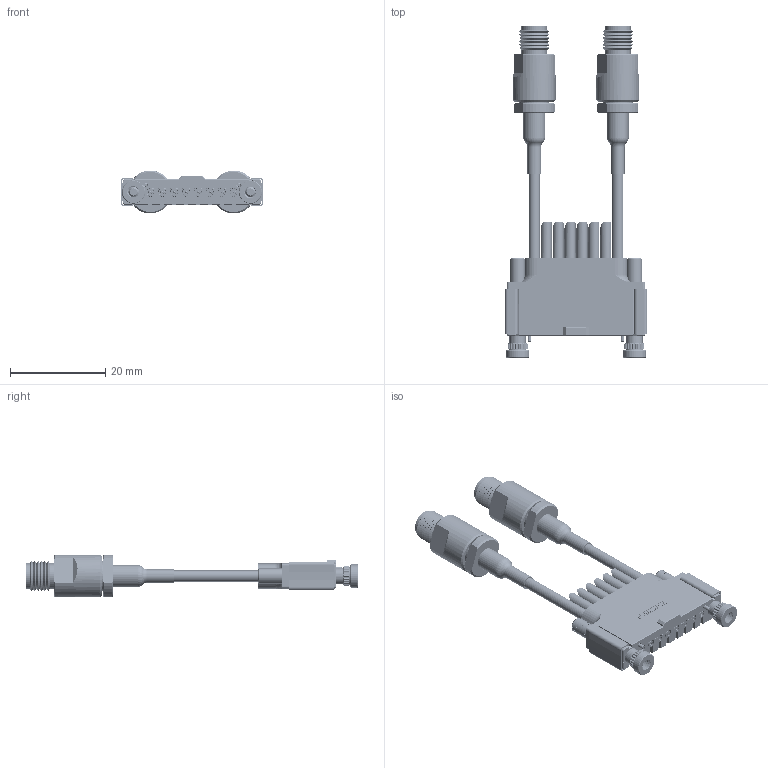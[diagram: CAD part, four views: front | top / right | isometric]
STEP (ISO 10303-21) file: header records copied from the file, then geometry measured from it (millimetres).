
FILE_DESCRIPTION (( 'STEP AP203' ), '1' );
FILE_NAME ('TM40-158-00.STEP', '2019-12-24T02:44:19', ( '' ), ( '' ), 'SwSTEP 2.0', 'SolidWorks 2019', '' );
FILE_SCHEMA (( 'CONFIG_CONTROL_DESIGN' ));
Length unit declared in the file: inch
Products named in the file (57): C6339-6_C6339-6; 3H24921610_CLOSED POSITION; TM7S-H2S-XXX-XXX_CUT; C6693_CLOSED POSITION; Copy of 101-2088-440460B^SMA(F); C6635-2_C6635-4; SPRING092; Copy of 103-1432-226460C^SMA(F); Copy of 102-1158-700000B^SMA(F); TM17-0007-00; TM40-158-00; TM7S-SH2XS_8POS-LONGNUT; C6695-1_FOR RG316; C3569-14_C3569-14; M23053-4-101-0_3K69771311P; C6716-XX_C6716-4; Copy of 101-2089-440000A^SMA(F); C6694-1_for flex gnd; C6697-2; Copy of 102-1157-700000A^SMA(F); TIP092; TM7S-H2S-XXX-XXX_SMA(F); C6715-XX_C6715-4; SPRING-EXT; C6625-2-092_B; Copy of Copy of 101-2485-440460A^SMA(F); C6628-1_for flex gnd; 1V6H2492_UFC092D_CABLE_2.92mm; C3021-103_Compress.025; Copy of Copy of 101-2484-121460A^SMA(F); C6696-2_RG316; C6698-2_"B"; SHELL092; SMA(F)_默认è_; Copy of Copy of 102-1302-700000A^SMA(F)
Assembly tree (159 placements, depth 5):
  TM40-158-00
    TM7S-SH2XS_8POS-LONGNUT
      C6716-XX_C6716-4
      C6715-XX_C6715-4
      TM17-0007-00  x2
      C3569-14_C3569-14  x2
      C6339-6_C6339-6  x2
      C6635-2_C6635-4  x2
    TM7S-H2S-XXX-XXX_SMA(F)
      3H24921610_CLOSED POSITION
        C6693_CLOSED POSITION
          TIP092
          SHELL092
          C6625-2-092_B
          SPRING092
          SPRING-EXT
        C6694-1_for flex gnd
        C6628-1_for flex gnd
        C6695-1_FOR RG316
        C6696-2_RG316
        C6697-2
        C6698-2_"B"
        C3021-103_Compress.025
      1V6H2492_UFC092D_CABLE_2.92mm
      SMA(F)_默认è_
        Copy of 101-2089-440000A^SMA(F)
        Copy of 101-2088-440460B^SMA(F)
        Copy of 103-1432-226460C^SMA(F)
        Copy of 102-1157-700000A^SMA(F)
        Copy of 102-1158-700000B^SMA(F)
        Copy of Copy of 101-2484-121460A^SMA(F)
        Copy of Copy of 101-2485-440460A^SMA(F)
        Copy of Copy of 102-1302-700000A^SMA(F)
      M23053-4-101-0_3K69771311P
    TM7S-H2S-XXX-XXX_CUT
      3H24921610_CLOSED POSITION
        C6693_CLOSED POSITION
          TIP092
          SHELL092
          C6625-2-092_B
          SPRING092
          SPRING-EXT
        C6694-1_for flex gnd
        C6628-1_for flex gnd
        C6695-1_FOR RG316
        C6696-2_RG316
        C6697-2
        C6698-2_"B"
        C3021-103_Compress.025
      1V6H2492_UFC092D_CABLE_2.92mm
    TM7S-H2S-XXX-XXX_CUT
      3H24921610_CLOSED POSITION
        C6693_CLOSED POSITION
          TIP092
          SHELL092
          C6625-2-092_B
          SPRING092
          SPRING-EXT
        C6694-1_for flex gnd
        C6628-1_for flex gnd
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Bounding box: 29.8 x 69.59 x 9 mm (x, y, z)
Volume: 4419.1 mm3; surface area: 17177.6 mm2
Topology: 172 solids, 172 shells, 4987 faces, 12287 edges, 7778 vertices
Faces by surface type: cylinder 1938, plane 1895, cone 790, torus 268, bspline 90, sphere 6
Entity records: 79523 total; most frequent: CARTESIAN_POINT 25238, DIRECTION 9646, ORIENTED_EDGE 9510, EDGE_CURVE 4755, AXIS2_PLACEMENT_3D 3606, VERTEX_POINT 3051, LINE 2434, VECTOR 2434
